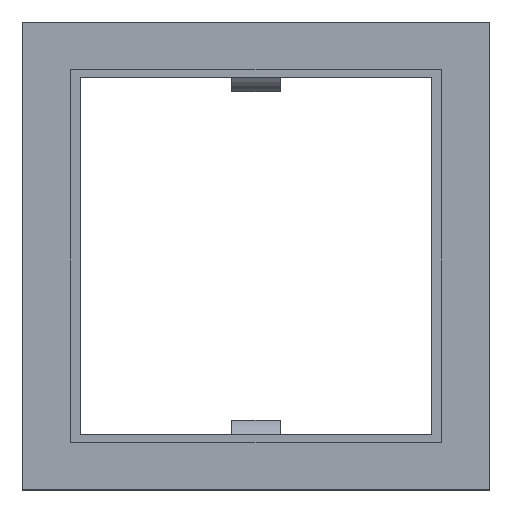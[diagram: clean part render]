
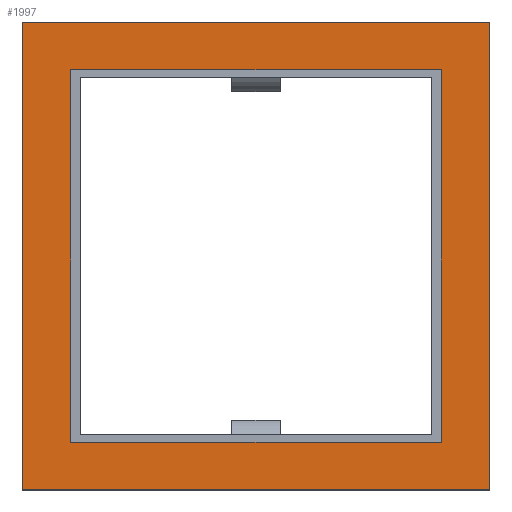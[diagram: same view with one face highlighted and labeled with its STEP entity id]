
A CAD part, top view. The second image highlights one B-rep face of the part: STEP entity #1997.
In plain terms, the highlighted planar face has unit normal (0, 0, 1).
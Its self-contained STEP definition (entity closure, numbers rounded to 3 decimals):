
#23=FACE_BOUND('',#233,.T.);
#125=FACE_OUTER_BOUND('',#232,.T.);
#232=EDGE_LOOP('',(#1624,#1625,#1626,#1627));
#233=EDGE_LOOP('',(#1628,#1629,#1630,#1631));
#422=LINE('',#3127,#662);
#425=LINE('',#3132,#665);
#427=LINE('',#3136,#667);
#429=LINE('',#3139,#669);
#430=LINE('',#3143,#670);
#434=LINE('',#3151,#674);
#437=LINE('',#3157,#677);
#440=LINE('',#3162,#680);
#662=VECTOR('',#2536,304.8);
#665=VECTOR('',#2541,304.8);
#667=VECTOR('',#2545,304.8);
#669=VECTOR('',#2549,304.8);
#670=VECTOR('',#2552,304.8);
#674=VECTOR('',#2558,304.8);
#677=VECTOR('',#2563,304.8);
#680=VECTOR('',#2568,304.8);
#932=VERTEX_POINT('',#3125);
#933=VERTEX_POINT('',#3126);
#934=VERTEX_POINT('',#3131);
#935=VERTEX_POINT('',#3135);
#936=VERTEX_POINT('',#3141);
#937=VERTEX_POINT('',#3142);
#940=VERTEX_POINT('',#3150);
#942=VERTEX_POINT('',#3156);
#1174=EDGE_CURVE('',#932,#933,#422,.T.);
#1177=EDGE_CURVE('',#934,#932,#425,.T.);
#1179=EDGE_CURVE('',#935,#934,#427,.T.);
#1181=EDGE_CURVE('',#933,#935,#429,.T.);
#1182=EDGE_CURVE('',#936,#937,#430,.T.);
#1186=EDGE_CURVE('',#940,#936,#434,.T.);
#1189=EDGE_CURVE('',#942,#940,#437,.T.);
#1192=EDGE_CURVE('',#937,#942,#440,.T.);
#1624=ORIENTED_EDGE('',*,*,#1192,.T.);
#1625=ORIENTED_EDGE('',*,*,#1189,.T.);
#1626=ORIENTED_EDGE('',*,*,#1186,.T.);
#1627=ORIENTED_EDGE('',*,*,#1182,.T.);
#1628=ORIENTED_EDGE('',*,*,#1181,.T.);
#1629=ORIENTED_EDGE('',*,*,#1179,.T.);
#1630=ORIENTED_EDGE('',*,*,#1177,.T.);
#1631=ORIENTED_EDGE('',*,*,#1174,.T.);
#1903=PLANE('',#2136);
#1997=ADVANCED_FACE('',(#125,#23),#1903,.T.);
#2136=AXIS2_PLACEMENT_3D('',#3167,#2574,#2575);
#2536=DIRECTION('',(1.,0.,0.));
#2541=DIRECTION('',(0.,1.,0.));
#2545=DIRECTION('',(-1.,0.,0.));
#2549=DIRECTION('',(0.,-1.,0.));
#2552=DIRECTION('',(0.,1.,0.));
#2558=DIRECTION('',(1.,0.,0.));
#2563=DIRECTION('',(0.,-1.,0.));
#2568=DIRECTION('',(-1.,0.,0.));
#2574=DIRECTION('center_axis',(0.,0.,1.));
#2575=DIRECTION('ref_axis',(-1.,0.,0.));
#3125=CARTESIAN_POINT('',(-45.5,45.8,1.687));
#3126=CARTESIAN_POINT('',(45.5,45.8,1.687));
#3127=CARTESIAN_POINT('',(-45.5,45.8,1.687));
#3131=CARTESIAN_POINT('',(-45.5,-45.8,1.687));
#3132=CARTESIAN_POINT('',(-45.5,-45.8,1.687));
#3135=CARTESIAN_POINT('',(45.5,-45.8,1.687));
#3136=CARTESIAN_POINT('',(45.5,-45.8,1.687));
#3139=CARTESIAN_POINT('',(45.5,45.8,1.687));
#3141=CARTESIAN_POINT('',(57.5,-57.5,1.687));
#3142=CARTESIAN_POINT('',(57.5,57.5,1.687));
#3143=CARTESIAN_POINT('',(57.5,-57.5,1.687));
#3150=CARTESIAN_POINT('',(-57.5,-57.5,1.687));
#3151=CARTESIAN_POINT('',(-57.5,-57.5,1.687));
#3156=CARTESIAN_POINT('',(-57.5,57.5,1.687));
#3157=CARTESIAN_POINT('',(-57.5,57.5,1.687));
#3162=CARTESIAN_POINT('',(57.5,57.5,1.687));
#3167=CARTESIAN_POINT('Origin',(-57.5,57.5,1.687));
